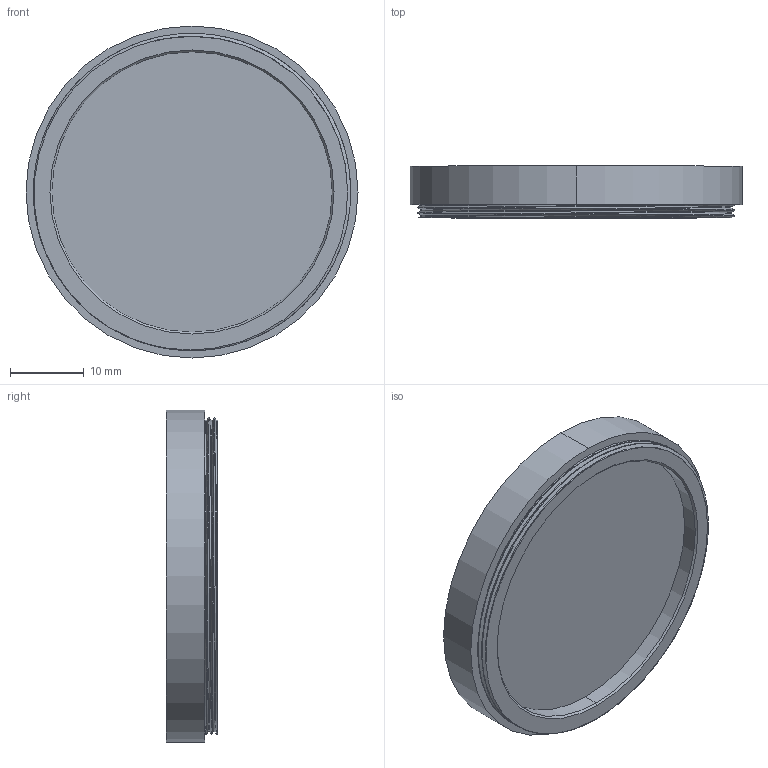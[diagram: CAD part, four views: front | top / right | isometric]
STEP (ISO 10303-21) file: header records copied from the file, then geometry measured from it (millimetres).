
FILE_DESCRIPTION (( 'STEP AP214' ), '1' );
FILE_NAME ('M43 x P0.75.STEP', '2023-01-19T08:18:00', ( '' ), ( '' ), 'SwSTEP 2.0', 'SolidWorks 2021', '' );
FILE_SCHEMA (( 'AUTOMOTIVE_DESIGN' ));
Length unit declared in the file: millimetre
Products named in the file (1): M43 x P0.75
Bounding box: 45 x 7 x 45 mm (x, y, z)
Volume: 2373.8 mm3; surface area: 6315.8 mm2
Topology: 3 solids, 3 shells, 47 faces, 113 edges, 75 vertices
Faces by surface type: cylinder 25, plane 11, bspline 9, cone 2
Entity records: 3208 total; most frequent: CARTESIAN_POINT 2185, ORIENTED_EDGE 226, DIRECTION 173, EDGE_CURVE 113, VERTEX_POINT 75, AXIS2_PLACEMENT_3D 73, EDGE_LOOP 54, ADVANCED_FACE 47
